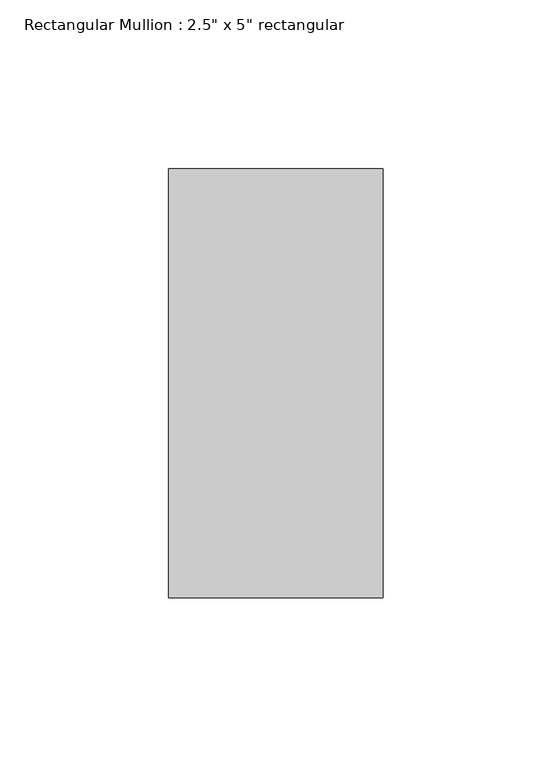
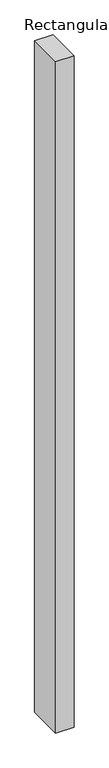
"""IFC4 building model written with IfcOpenShell, lengths in millimetres: member geometry."""

from ifc_helpers import new_model, si_unit, frame, origin, place, context, project, spatial, polyline, outline, extrude, source, transform, mapped, element, save


def member_57980dff(model_context):
    return source(origin(), model_context, "Body", "SweptSolid", [
        extrude(outline(polyline([(31.75, 63.5), (31.75, -63.5), (-31.75, -63.5), (-31.75, 63.5), (31.75, 63.5)])), frame((0.0, 0.0, -2470.15), z_axis=(0.0, 0.0, 1.0), x_axis=(1.0, 0.0, 0.0)), (0.0, 0.0, 1.0), 2470.15),
    ])


if __name__ == "__main__":
    model = new_model("IFC4")
    model_context = context("Model", 3, world=origin())
    ifc_project = project(units=[si_unit("LENGTHUNIT", "METRE", prefix="MILLI")], contexts=[model_context])
    site = spatial("IfcSite", under=ifc_project)
    building = spatial("IfcBuilding", under=site)
    placement = place(None, origin())
    member_shape = member_57980dff(model_context)
    element("IfcMember", 1, ObjectType="Rectangular Mullion : 2.5\" x 5\" rectangular", at=placement, inside=building, context=model_context, shape_type="MappedRepresentation", body=[
        mapped(member_shape, transform((0.0, 0.0, 0.0), x_axis=(1.0, 0.0, 0.0), y_axis=(0.0, 1.0, 0.0), z_axis=(0.0, 0.0, 1.0))),
    ])
    save(model, "model.ifc")
